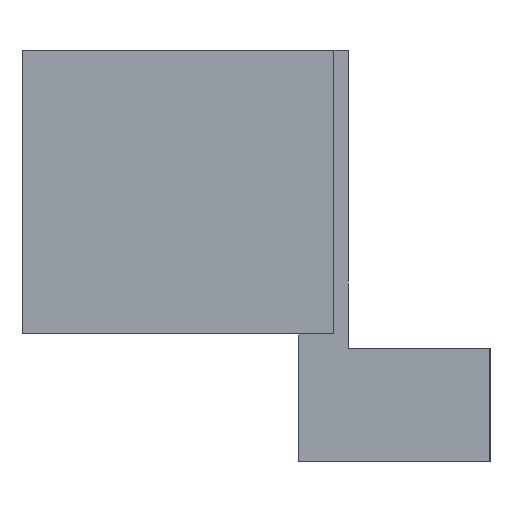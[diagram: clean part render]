
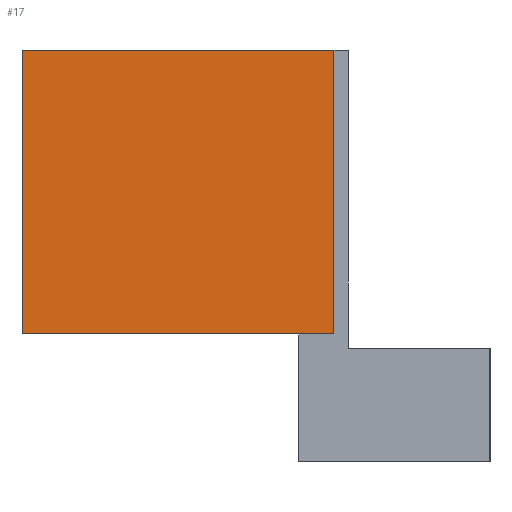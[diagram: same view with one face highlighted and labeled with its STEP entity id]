
A CAD part, left-side view. The second image highlights one B-rep face of the part: STEP entity #17.
In plain terms, the highlighted planar face has unit normal (-1, 0, 0).
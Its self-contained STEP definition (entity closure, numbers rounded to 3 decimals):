
#17 = ADVANCED_FACE('',(#18),#32,.F.);
#18 = FACE_BOUND('',#19,.F.);
#19 = EDGE_LOOP('',(#20,#55,#83,#111));
#20 = ORIENTED_EDGE('',*,*,#21,.F.);
#21 = EDGE_CURVE('',#22,#24,#26,.T.);
#22 = VERTEX_POINT('',#23);
#23 = CARTESIAN_POINT('',(-26.113,34.,10.));
#24 = VERTEX_POINT('',#25);
#25 = CARTESIAN_POINT('',(-26.113,34.,14.));
#26 = SURFACE_CURVE('',#27,(#31,#43),.PCURVE_S1.);
#27 = LINE('',#28,#29);
#28 = CARTESIAN_POINT('',(-26.113,34.,10.));
#29 = VECTOR('',#30,1.);
#30 = DIRECTION('',(0.,0.,1.));
#31 = PCURVE('',#32,#37);
#32 = PLANE('',#33);
#33 = AXIS2_PLACEMENT_3D('',#34,#35,#36);
#34 = CARTESIAN_POINT('',(-26.113,34.,10.));
#35 = DIRECTION('',(1.,0.,-0.));
#36 = DIRECTION('',(0.,0.,1.));
#37 = DEFINITIONAL_REPRESENTATION('',(#38),#42);
#38 = LINE('',#39,#40);
#39 = CARTESIAN_POINT('',(0.,0.));
#40 = VECTOR('',#41,1.);
#41 = DIRECTION('',(1.,0.));
#42 = ( GEOMETRIC_REPRESENTATION_CONTEXT(2) 
PARAMETRIC_REPRESENTATION_CONTEXT() REPRESENTATION_CONTEXT('2D SPACE',''
  ) );
#43 = PCURVE('',#44,#49);
#44 = PLANE('',#45);
#45 = AXIS2_PLACEMENT_3D('',#46,#47,#48);
#46 = CARTESIAN_POINT('',(-26.113,34.,10.));
#47 = DIRECTION('',(-0.,1.,0.));
#48 = DIRECTION('',(0.,0.,1.));
#49 = DEFINITIONAL_REPRESENTATION('',(#50),#54);
#50 = LINE('',#51,#52);
#51 = CARTESIAN_POINT('',(0.,0.));
#52 = VECTOR('',#53,1.);
#53 = DIRECTION('',(1.,0.));
#54 = ( GEOMETRIC_REPRESENTATION_CONTEXT(2) 
PARAMETRIC_REPRESENTATION_CONTEXT() REPRESENTATION_CONTEXT('2D SPACE',''
  ) );
#55 = ORIENTED_EDGE('',*,*,#56,.T.);
#56 = EDGE_CURVE('',#22,#57,#59,.T.);
#57 = VERTEX_POINT('',#58);
#58 = CARTESIAN_POINT('',(-26.113,38.4,10.));
#59 = SURFACE_CURVE('',#60,(#64,#71),.PCURVE_S1.);
#60 = LINE('',#61,#62);
#61 = CARTESIAN_POINT('',(-26.113,34.,10.));
#62 = VECTOR('',#63,1.);
#63 = DIRECTION('',(-0.,1.,0.));
#64 = PCURVE('',#32,#65);
#65 = DEFINITIONAL_REPRESENTATION('',(#66),#70);
#66 = LINE('',#67,#68);
#67 = CARTESIAN_POINT('',(0.,0.));
#68 = VECTOR('',#69,1.);
#69 = DIRECTION('',(0.,-1.));
#70 = ( GEOMETRIC_REPRESENTATION_CONTEXT(2) 
PARAMETRIC_REPRESENTATION_CONTEXT() REPRESENTATION_CONTEXT('2D SPACE',''
  ) );
#71 = PCURVE('',#72,#77);
#72 = PLANE('',#73);
#73 = AXIS2_PLACEMENT_3D('',#74,#75,#76);
#74 = CARTESIAN_POINT('',(-26.113,34.,10.));
#75 = DIRECTION('',(0.,0.,1.));
#76 = DIRECTION('',(1.,0.,-0.));
#77 = DEFINITIONAL_REPRESENTATION('',(#78),#82);
#78 = LINE('',#79,#80);
#79 = CARTESIAN_POINT('',(0.,0.));
#80 = VECTOR('',#81,1.);
#81 = DIRECTION('',(0.,1.));
#82 = ( GEOMETRIC_REPRESENTATION_CONTEXT(2) 
PARAMETRIC_REPRESENTATION_CONTEXT() REPRESENTATION_CONTEXT('2D SPACE',''
  ) );
#83 = ORIENTED_EDGE('',*,*,#84,.T.);
#84 = EDGE_CURVE('',#57,#85,#87,.T.);
#85 = VERTEX_POINT('',#86);
#86 = CARTESIAN_POINT('',(-26.113,38.4,14.));
#87 = SURFACE_CURVE('',#88,(#92,#99),.PCURVE_S1.);
#88 = LINE('',#89,#90);
#89 = CARTESIAN_POINT('',(-26.113,38.4,10.));
#90 = VECTOR('',#91,1.);
#91 = DIRECTION('',(0.,0.,1.));
#92 = PCURVE('',#32,#93);
#93 = DEFINITIONAL_REPRESENTATION('',(#94),#98);
#94 = LINE('',#95,#96);
#95 = CARTESIAN_POINT('',(0.,-4.4));
#96 = VECTOR('',#97,1.);
#97 = DIRECTION('',(1.,0.));
#98 = ( GEOMETRIC_REPRESENTATION_CONTEXT(2) 
PARAMETRIC_REPRESENTATION_CONTEXT() REPRESENTATION_CONTEXT('2D SPACE',''
  ) );
#99 = PCURVE('',#100,#105);
#100 = PLANE('',#101);
#101 = AXIS2_PLACEMENT_3D('',#102,#103,#104);
#102 = CARTESIAN_POINT('',(-26.113,38.4,10.));
#103 = DIRECTION('',(-0.,1.,0.));
#104 = DIRECTION('',(0.,0.,1.));
#105 = DEFINITIONAL_REPRESENTATION('',(#106),#110);
#106 = LINE('',#107,#108);
#107 = CARTESIAN_POINT('',(0.,0.));
#108 = VECTOR('',#109,1.);
#109 = DIRECTION('',(1.,0.));
#110 = ( GEOMETRIC_REPRESENTATION_CONTEXT(2) 
PARAMETRIC_REPRESENTATION_CONTEXT() REPRESENTATION_CONTEXT('2D SPACE',''
  ) );
#111 = ORIENTED_EDGE('',*,*,#112,.F.);
#112 = EDGE_CURVE('',#24,#85,#113,.T.);
#113 = SURFACE_CURVE('',#114,(#118,#125),.PCURVE_S1.);
#114 = LINE('',#115,#116);
#115 = CARTESIAN_POINT('',(-26.113,34.,14.));
#116 = VECTOR('',#117,1.);
#117 = DIRECTION('',(-0.,1.,0.));
#118 = PCURVE('',#32,#119);
#119 = DEFINITIONAL_REPRESENTATION('',(#120),#124);
#120 = LINE('',#121,#122);
#121 = CARTESIAN_POINT('',(4.,0.));
#122 = VECTOR('',#123,1.);
#123 = DIRECTION('',(0.,-1.));
#124 = ( GEOMETRIC_REPRESENTATION_CONTEXT(2) 
PARAMETRIC_REPRESENTATION_CONTEXT() REPRESENTATION_CONTEXT('2D SPACE',''
  ) );
#125 = PCURVE('',#126,#131);
#126 = PLANE('',#127);
#127 = AXIS2_PLACEMENT_3D('',#128,#129,#130);
#128 = CARTESIAN_POINT('',(-26.113,34.,14.));
#129 = DIRECTION('',(0.,0.,1.));
#130 = DIRECTION('',(1.,0.,-0.));
#131 = DEFINITIONAL_REPRESENTATION('',(#132),#136);
#132 = LINE('',#133,#134);
#133 = CARTESIAN_POINT('',(0.,0.));
#134 = VECTOR('',#135,1.);
#135 = DIRECTION('',(0.,1.));
#136 = ( GEOMETRIC_REPRESENTATION_CONTEXT(2) 
PARAMETRIC_REPRESENTATION_CONTEXT() REPRESENTATION_CONTEXT('2D SPACE',''
  ) );
